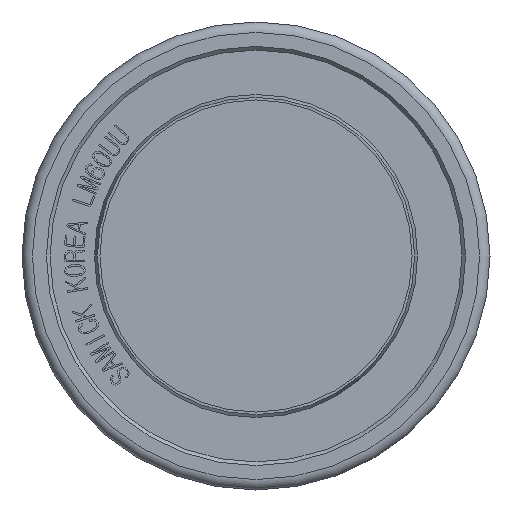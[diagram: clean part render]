
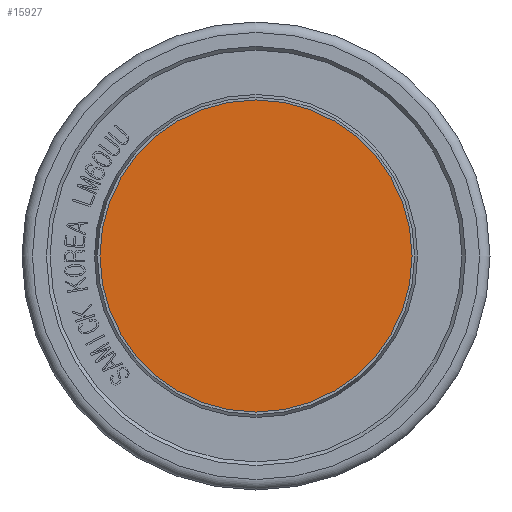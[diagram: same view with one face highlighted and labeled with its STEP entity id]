
A CAD part, front view. The second image highlights one B-rep face of the part: STEP entity #15927.
In plain terms, the highlighted planar face has unit normal (0, -1, 0).
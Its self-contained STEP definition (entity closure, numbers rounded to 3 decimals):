
#440=CIRCLE('',#16194,30.);
#4146=FACE_OUTER_BOUND('',#5029,.T.);
#5029=EDGE_LOOP('',(#14765));
#7799=VERTEX_POINT('',#28699);
#10138=EDGE_CURVE('',#7799,#7799,#440,.T.);
#14765=ORIENTED_EDGE('',*,*,#10138,.F.);
#15105=PLANE('',#16196);
#15927=ADVANCED_FACE('',(#4146),#15105,.T.);
#16194=AXIS2_PLACEMENT_3D('',#28701,#17795,#17796);
#16196=AXIS2_PLACEMENT_3D('',#28703,#17799,#17800);
#17795=DIRECTION('center_axis',(0.,1.,0.));
#17796=DIRECTION('ref_axis',(1.,0.,0.));
#17799=DIRECTION('center_axis',(0.,-1.,0.));
#17800=DIRECTION('ref_axis',(0.,0.,-1.));
#28699=CARTESIAN_POINT('',(-30.,-87.5,0.));
#28701=CARTESIAN_POINT('Origin',(0.,-87.5,0.));
#28703=CARTESIAN_POINT('Origin',(0.,-87.5,0.));
